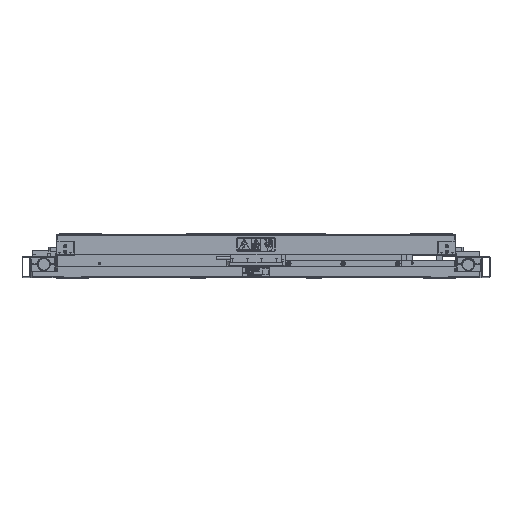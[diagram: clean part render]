
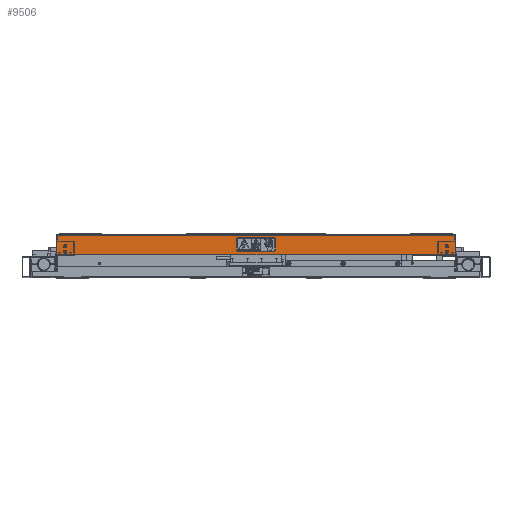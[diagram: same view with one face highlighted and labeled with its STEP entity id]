
A CAD part, top view. The second image highlights one B-rep face of the part: STEP entity #9506.
In plain terms, the highlighted planar face has unit normal (0, 0, 1).
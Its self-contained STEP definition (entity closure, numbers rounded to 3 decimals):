
#631 = FACE_BOUND ( 'NONE', #2619, .T. ) ;
#985 = VERTEX_POINT ( 'NONE', #11490 ) ;
#1519 = CARTESIAN_POINT ( 'NONE',  ( 146.091, 59.614, 661. ) ) ;
#2619 = EDGE_LOOP ( 'NONE', ( #5072, #57453 ) ) ;
#3595 = EDGE_CURVE ( 'NONE', #64793, #10009, #11413, .T. ) ;
#3932 = EDGE_CURVE ( 'NONE', #73229, #20913, #52112, .T. ) ;
#3981 = CARTESIAN_POINT ( 'NONE',  ( 131.341, 45.451, 661. ) ) ;
#4616 = VERTEX_POINT ( 'NONE', #74607 ) ;
#5072 = ORIENTED_EDGE ( 'NONE', *, *, #70226, .F. ) ;
#5211 = CARTESIAN_POINT ( 'NONE',  ( -401.909, 33.351, 661. ) ) ;
#6475 = CARTESIAN_POINT ( 'NONE',  ( -403.909, 35.351, 661. ) ) ;
#9286 = EDGE_CURVE ( 'NONE', #985, #73229, #73011, .T. ) ;
#9506 = ADVANCED_FACE ( 'NONE', ( #631, #70677, #64620, #19216, #35275 ), #18111, .T. ) ;
#9607 = VERTEX_POINT ( 'NONE', #72536 ) ;
#9877 = DIRECTION ( 'NONE',  ( 1., 0., 0. ) ) ;
#10009 = VERTEX_POINT ( 'NONE', #71328 ) ;
#10359 = EDGE_LOOP ( 'NONE', ( #14040, #74172 ) ) ;
#10535 = CIRCLE ( 'NONE', #56729, 2.25 ) ;
#10767 = EDGE_LOOP ( 'NONE', ( #71480, #62186, #62268, #53340, #40843, #13808 ) ) ;
#11413 = LINE ( 'NONE', #60873, #42548 ) ;
#11490 = CARTESIAN_POINT ( 'NONE',  ( -403.909, 59.614, 661. ) ) ;
#11692 = CIRCLE ( 'NONE', #22578, 2.25 ) ;
#12789 = CARTESIAN_POINT ( 'NONE',  ( -403.909, 61.351, 661. ) ) ;
#13127 = AXIS2_PLACEMENT_3D ( 'NONE', #47013, #28699, #52686 ) ;
#13798 = ORIENTED_EDGE ( 'NONE', *, *, #40565, .F. ) ;
#13808 = ORIENTED_EDGE ( 'NONE', *, *, #3932, .T. ) ;
#14040 = ORIENTED_EDGE ( 'NONE', *, *, #31929, .F. ) ;
#15528 = CARTESIAN_POINT ( 'NONE',  ( 133.591, 37.451, 661. ) ) ;
#17094 = ORIENTED_EDGE ( 'NONE', *, *, #18115, .F. ) ;
#17260 = AXIS2_PLACEMENT_3D ( 'NONE', #74615, #50259, #9877 ) ;
#17617 = CARTESIAN_POINT ( 'NONE',  ( 133.591, 37.451, 661. ) ) ;
#17979 = DIRECTION ( 'NONE',  ( 0., 0., 1. ) ) ;
#17991 = DIRECTION ( 'NONE',  ( 0., 0., 1. ) ) ;
#18111 = PLANE ( 'NONE',  #72678 ) ;
#18115 = EDGE_CURVE ( 'NONE', #4616, #32396, #52991, .T. ) ;
#18399 = DIRECTION ( 'NONE',  ( 1., 0., 0. ) ) ;
#18547 = ORIENTED_EDGE ( 'NONE', *, *, #51247, .F. ) ;
#19216 = FACE_BOUND ( 'NONE', #36339, .T. ) ;
#19854 = VECTOR ( 'NONE', #32600, 1000. ) ;
#20813 = CARTESIAN_POINT ( 'NONE',  ( -403.909, 61.351, 661. ) ) ;
#20913 = VERTEX_POINT ( 'NONE', #5211 ) ;
#21146 = VERTEX_POINT ( 'NONE', #48206 ) ;
#22271 = CARTESIAN_POINT ( 'NONE',  ( -403.909, 59.614, 661. ) ) ;
#22578 = AXIS2_PLACEMENT_3D ( 'NONE', #23684, #17979, #41200 ) ;
#22838 = CIRCLE ( 'NONE', #13127, 2.25 ) ;
#23684 = CARTESIAN_POINT ( 'NONE',  ( 133.591, 45.451, 661. ) ) ;
#24063 = CIRCLE ( 'NONE', #39881, 2.25 ) ;
#24317 = LINE ( 'NONE', #70444, #65072 ) ;
#24942 = AXIS2_PLACEMENT_3D ( 'NONE', #17617, #17991, #52634 ) ;
#25216 = EDGE_CURVE ( 'NONE', #21146, #51882, #57832, .T. ) ;
#26156 = VERTEX_POINT ( 'NONE', #3981 ) ;
#26472 = VECTOR ( 'NONE', #70944, 1000. ) ;
#27155 = CIRCLE ( 'NONE', #67334, 2.25 ) ;
#28699 = DIRECTION ( 'NONE',  ( 0., 0., 1. ) ) ;
#30903 = CARTESIAN_POINT ( 'NONE',  ( -403.909, 33.351, 661. ) ) ;
#31523 = CARTESIAN_POINT ( 'NONE',  ( 135.841, 37.451, 661. ) ) ;
#31929 = EDGE_CURVE ( 'NONE', #51882, #21146, #27155, .T. ) ;
#32253 = DIRECTION ( 'NONE',  ( 0., 0., 1. ) ) ;
#32396 = VERTEX_POINT ( 'NONE', #46468 ) ;
#32600 = DIRECTION ( 'NONE',  ( 0., -1., 0. ) ) ;
#34807 = EDGE_CURVE ( 'NONE', #20913, #67679, #72053, .T. ) ;
#35275 = FACE_OUTER_BOUND ( 'NONE', #10767, .T. ) ;
#35856 = DIRECTION ( 'NONE',  ( 1., 0., 0. ) ) ;
#36339 = EDGE_LOOP ( 'NONE', ( #17094, #13798 ) ) ;
#36495 = DIRECTION ( 'NONE',  ( 0., -1., 0. ) ) ;
#36603 = DIRECTION ( 'NONE',  ( 0., 0., 1. ) ) ;
#37567 = VERTEX_POINT ( 'NONE', #53121 ) ;
#38644 = LINE ( 'NONE', #22271, #41169 ) ;
#39083 = EDGE_CURVE ( 'NONE', #9607, #37567, #51339, .T. ) ;
#39881 = AXIS2_PLACEMENT_3D ( 'NONE', #51931, #74829, #18399 ) ;
#40565 = EDGE_CURVE ( 'NONE', #32396, #4616, #22838, .T. ) ;
#40843 = ORIENTED_EDGE ( 'NONE', *, *, #9286, .T. ) ;
#41169 = VECTOR ( 'NONE', #74097, 1000. ) ;
#41200 = DIRECTION ( 'NONE',  ( 1., 0., 0. ) ) ;
#41488 = EDGE_CURVE ( 'NONE', #985, #64793, #38644, .T. ) ;
#42021 = AXIS2_PLACEMENT_3D ( 'NONE', #45549, #62717, #63451 ) ;
#42548 = VECTOR ( 'NONE', #36495, 1000. ) ;
#43685 = ORIENTED_EDGE ( 'NONE', *, *, #39083, .F. ) ;
#45549 = CARTESIAN_POINT ( 'NONE',  ( -391.409, 45.451, 661. ) ) ;
#46046 = CARTESIAN_POINT ( 'NONE',  ( -416.909, 48.351, 661. ) ) ;
#46434 = DIRECTION ( 'NONE',  ( 0.707, -0.707, 0. ) ) ;
#46468 = CARTESIAN_POINT ( 'NONE',  ( -393.659, 45.451, 661. ) ) ;
#47013 = CARTESIAN_POINT ( 'NONE',  ( -391.409, 45.451, 661. ) ) ;
#48206 = CARTESIAN_POINT ( 'NONE',  ( 131.341, 37.451, 661. ) ) ;
#50259 = DIRECTION ( 'NONE',  ( 0., 0., 1. ) ) ;
#51247 = EDGE_CURVE ( 'NONE', #37567, #9607, #10535, .T. ) ;
#51339 = CIRCLE ( 'NONE', #17260, 2.25 ) ;
#51882 = VERTEX_POINT ( 'NONE', #31523 ) ;
#51931 = CARTESIAN_POINT ( 'NONE',  ( 133.591, 45.451, 661. ) ) ;
#52112 = LINE ( 'NONE', #46046, #70573 ) ;
#52634 = DIRECTION ( 'NONE',  ( 1., 0., 0. ) ) ;
#52686 = DIRECTION ( 'NONE',  ( 1., 0., 0. ) ) ;
#52991 = CIRCLE ( 'NONE', #42021, 2.25 ) ;
#53121 = CARTESIAN_POINT ( 'NONE',  ( -393.659, 37.451, 661. ) ) ;
#53340 = ORIENTED_EDGE ( 'NONE', *, *, #41488, .F. ) ;
#53738 = CARTESIAN_POINT ( 'NONE',  ( -391.409, 37.451, 661. ) ) ;
#53963 = VERTEX_POINT ( 'NONE', #64966 ) ;
#56729 = AXIS2_PLACEMENT_3D ( 'NONE', #53738, #36603, #35856 ) ;
#57453 = ORIENTED_EDGE ( 'NONE', *, *, #57593, .F. ) ;
#57533 = DIRECTION ( 'NONE',  ( 0.707, 0.707, 0. ) ) ;
#57593 = EDGE_CURVE ( 'NONE', #26156, #53963, #11692, .T. ) ;
#57832 = CIRCLE ( 'NONE', #24942, 2.25 ) ;
#60424 = EDGE_LOOP ( 'NONE', ( #43685, #18547 ) ) ;
#60873 = CARTESIAN_POINT ( 'NONE',  ( 146.091, 61.351, 661. ) ) ;
#62186 = ORIENTED_EDGE ( 'NONE', *, *, #68431, .T. ) ;
#62268 = ORIENTED_EDGE ( 'NONE', *, *, #3595, .F. ) ;
#62717 = DIRECTION ( 'NONE',  ( 0., 0., 1. ) ) ;
#63451 = DIRECTION ( 'NONE',  ( 1., 0., 0. ) ) ;
#64620 = FACE_BOUND ( 'NONE', #60424, .T. ) ;
#64793 = VERTEX_POINT ( 'NONE', #1519 ) ;
#64966 = CARTESIAN_POINT ( 'NONE',  ( 135.841, 45.451, 661. ) ) ;
#64998 = DIRECTION ( 'NONE',  ( 0., 1., 0. ) ) ;
#65072 = VECTOR ( 'NONE', #57533, 1000. ) ;
#67334 = AXIS2_PLACEMENT_3D ( 'NONE', #15528, #32253, #73043 ) ;
#67679 = VERTEX_POINT ( 'NONE', #68438 ) ;
#68431 = EDGE_CURVE ( 'NONE', #67679, #10009, #24317, .T. ) ;
#68438 = CARTESIAN_POINT ( 'NONE',  ( 144.091, 33.351, 661. ) ) ;
#69917 = DIRECTION ( 'NONE',  ( 0., 0., 1. ) ) ;
#70226 = EDGE_CURVE ( 'NONE', #53963, #26156, #24063, .T. ) ;
#70444 = CARTESIAN_POINT ( 'NONE',  ( -115.909, -226.649, 661. ) ) ;
#70573 = VECTOR ( 'NONE', #46434, 1000. ) ;
#70677 = FACE_BOUND ( 'NONE', #10359, .T. ) ;
#70944 = DIRECTION ( 'NONE',  ( 1., 0., 0. ) ) ;
#71328 = CARTESIAN_POINT ( 'NONE',  ( 146.091, 35.351, 661. ) ) ;
#71480 = ORIENTED_EDGE ( 'NONE', *, *, #34807, .T. ) ;
#72053 = LINE ( 'NONE', #30903, #26472 ) ;
#72536 = CARTESIAN_POINT ( 'NONE',  ( -389.159, 37.451, 661. ) ) ;
#72678 = AXIS2_PLACEMENT_3D ( 'NONE', #12789, #69917, #64998 ) ;
#73011 = LINE ( 'NONE', #20813, #19854 ) ;
#73043 = DIRECTION ( 'NONE',  ( 1., 0., 0. ) ) ;
#73229 = VERTEX_POINT ( 'NONE', #6475 ) ;
#74097 = DIRECTION ( 'NONE',  ( 1., 0., 0. ) ) ;
#74172 = ORIENTED_EDGE ( 'NONE', *, *, #25216, .F. ) ;
#74607 = CARTESIAN_POINT ( 'NONE',  ( -389.159, 45.451, 661. ) ) ;
#74615 = CARTESIAN_POINT ( 'NONE',  ( -391.409, 37.451, 661. ) ) ;
#74829 = DIRECTION ( 'NONE',  ( 0., 0., 1. ) ) ;
